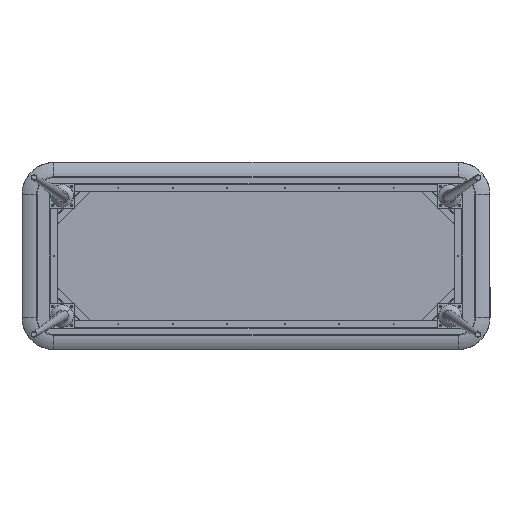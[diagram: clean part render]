
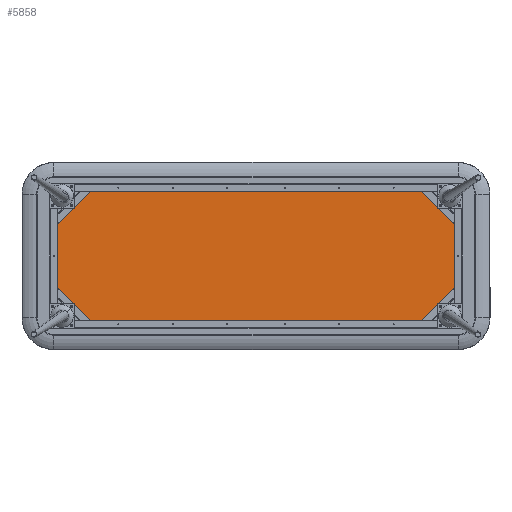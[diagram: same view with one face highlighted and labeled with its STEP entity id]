
A CAD part, front view. The second image highlights one B-rep face of the part: STEP entity #5858.
In plain terms, the highlighted planar face has unit normal (0, -1, 0).
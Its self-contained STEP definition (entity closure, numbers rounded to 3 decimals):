
#1326 = CARTESIAN_POINT ( 'NONE',  ( -633.784, 138.43, 37.607 ) ) ;
#2260 = EDGE_CURVE ( 'NONE', #26999, #3422, #5812, .T. ) ;
#2663 = EDGE_CURVE ( 'NONE', #3422, #15570, #25619, .T. ) ;
#3422 = VERTEX_POINT ( 'NONE', #10692 ) ;
#3644 = DIRECTION ( 'NONE',  ( 0., 0., -1. ) ) ;
#3840 = CARTESIAN_POINT ( 'NONE',  ( 1131.21, 138.43, 37.607 ) ) ;
#4573 = ORIENTED_EDGE ( 'NONE', *, *, #30356, .T. ) ;
#5234 = CARTESIAN_POINT ( 'NONE',  ( 1307.713, 138.43, 214.607 ) ) ;
#5812 = LINE ( 'NONE', #18096, #18542 ) ;
#5858 = ADVANCED_FACE ( 'NONE', ( #16131 ), #28053, .F. ) ;
#5894 = VECTOR ( 'NONE', #7647, 1000. ) ;
#6646 = LINE ( 'NONE', #5234, #5894 ) ;
#6882 = VECTOR ( 'NONE', #25007, 1000. ) ;
#7594 = CARTESIAN_POINT ( 'NONE',  ( -810.287, 138.43, 214.607 ) ) ;
#7647 = DIRECTION ( 'NONE',  ( 0.706, 0., 0.708 ) ) ;
#9345 = DIRECTION ( 'NONE',  ( 1., 0., 0. ) ) ;
#9432 = LINE ( 'NONE', #30621, #20709 ) ;
#9895 = VECTOR ( 'NONE', #12466, 1000. ) ;
#9896 = EDGE_CURVE ( 'NONE', #23108, #18986, #9432, .T. ) ;
#10440 = VERTEX_POINT ( 'NONE', #12788 ) ;
#10692 = CARTESIAN_POINT ( 'NONE',  ( -810.287, 138.43, 548.607 ) ) ;
#12466 = DIRECTION ( 'NONE',  ( -1., 0., 0. ) ) ;
#12673 = ORIENTED_EDGE ( 'NONE', *, *, #17303, .T. ) ;
#12741 = LINE ( 'NONE', #18871, #18362 ) ;
#12788 = CARTESIAN_POINT ( 'NONE',  ( 1131.21, 138.43, 725.607 ) ) ;
#13838 = DIRECTION ( 'NONE',  ( 0., 1., 0. ) ) ;
#14133 = ORIENTED_EDGE ( 'NONE', *, *, #14708, .T. ) ;
#14708 = EDGE_CURVE ( 'NONE', #18986, #10440, #25978, .T. ) ;
#14932 = EDGE_CURVE ( 'NONE', #15570, #27041, #28563, .T. ) ;
#15570 = VERTEX_POINT ( 'NONE', #7594 ) ;
#15949 = EDGE_CURVE ( 'NONE', #27041, #16955, #12741, .T. ) ;
#16131 = FACE_OUTER_BOUND ( 'NONE', #29656, .T. ) ;
#16301 = LINE ( 'NONE', #29237, #9895 ) ;
#16306 = CARTESIAN_POINT ( 'NONE',  ( -810.287, 138.43, 214.607 ) ) ;
#16414 = DIRECTION ( 'NONE',  ( 0.706, 0., -0.708 ) ) ;
#16955 = VERTEX_POINT ( 'NONE', #3840 ) ;
#17303 = EDGE_CURVE ( 'NONE', #10440, #26999, #16301, .T. ) ;
#17989 = CARTESIAN_POINT ( 'NONE',  ( -633.784, 138.43, 725.607 ) ) ;
#18096 = CARTESIAN_POINT ( 'NONE',  ( -810.287, 138.43, 548.607 ) ) ;
#18260 = ORIENTED_EDGE ( 'NONE', *, *, #9896, .T. ) ;
#18362 = VECTOR ( 'NONE', #9345, 1000. ) ;
#18542 = VECTOR ( 'NONE', #20429, 1000. ) ;
#18708 = DIRECTION ( 'NONE',  ( 0., 0., 1. ) ) ;
#18735 = ORIENTED_EDGE ( 'NONE', *, *, #2663, .T. ) ;
#18871 = CARTESIAN_POINT ( 'NONE',  ( 1131.21, 138.43, 37.607 ) ) ;
#18986 = VERTEX_POINT ( 'NONE', #20721 ) ;
#19232 = VECTOR ( 'NONE', #3644, 1000. ) ;
#20429 = DIRECTION ( 'NONE',  ( -0.706, 0., -0.708 ) ) ;
#20709 = VECTOR ( 'NONE', #18708, 1000. ) ;
#20721 = CARTESIAN_POINT ( 'NONE',  ( 1307.713, 138.43, 548.607 ) ) ;
#22197 = VECTOR ( 'NONE', #16414, 1000. ) ;
#22710 = CARTESIAN_POINT ( 'NONE',  ( -810.287, 138.43, 548.607 ) ) ;
#22715 = CARTESIAN_POINT ( 'NONE',  ( 1307.713, 138.43, 214.607 ) ) ;
#22875 = AXIS2_PLACEMENT_3D ( 'NONE', #28160, #13838, #30531 ) ;
#23108 = VERTEX_POINT ( 'NONE', #22715 ) ;
#24307 = ORIENTED_EDGE ( 'NONE', *, *, #15949, .T. ) ;
#25007 = DIRECTION ( 'NONE',  ( -0.706, 0., 0.708 ) ) ;
#25619 = LINE ( 'NONE', #22710, #19232 ) ;
#25789 = ORIENTED_EDGE ( 'NONE', *, *, #14932, .T. ) ;
#25978 = LINE ( 'NONE', #27415, #6882 ) ;
#26999 = VERTEX_POINT ( 'NONE', #17989 ) ;
#27041 = VERTEX_POINT ( 'NONE', #1326 ) ;
#27415 = CARTESIAN_POINT ( 'NONE',  ( 1307.713, 138.43, 548.607 ) ) ;
#28053 = PLANE ( 'NONE',  #22875 ) ;
#28160 = CARTESIAN_POINT ( 'NONE',  ( 248.713, 138.43, 381.607 ) ) ;
#28563 = LINE ( 'NONE', #16306, #22197 ) ;
#28833 = ORIENTED_EDGE ( 'NONE', *, *, #2260, .T. ) ;
#29237 = CARTESIAN_POINT ( 'NONE',  ( -633.784, 138.43, 725.607 ) ) ;
#29656 = EDGE_LOOP ( 'NONE', ( #18260, #14133, #12673, #28833, #18735, #25789, #24307, #4573 ) ) ;
#30356 = EDGE_CURVE ( 'NONE', #16955, #23108, #6646, .T. ) ;
#30531 = DIRECTION ( 'NONE',  ( 0., 0., 1. ) ) ;
#30621 = CARTESIAN_POINT ( 'NONE',  ( 1307.713, 138.43, 548.607 ) ) ;
